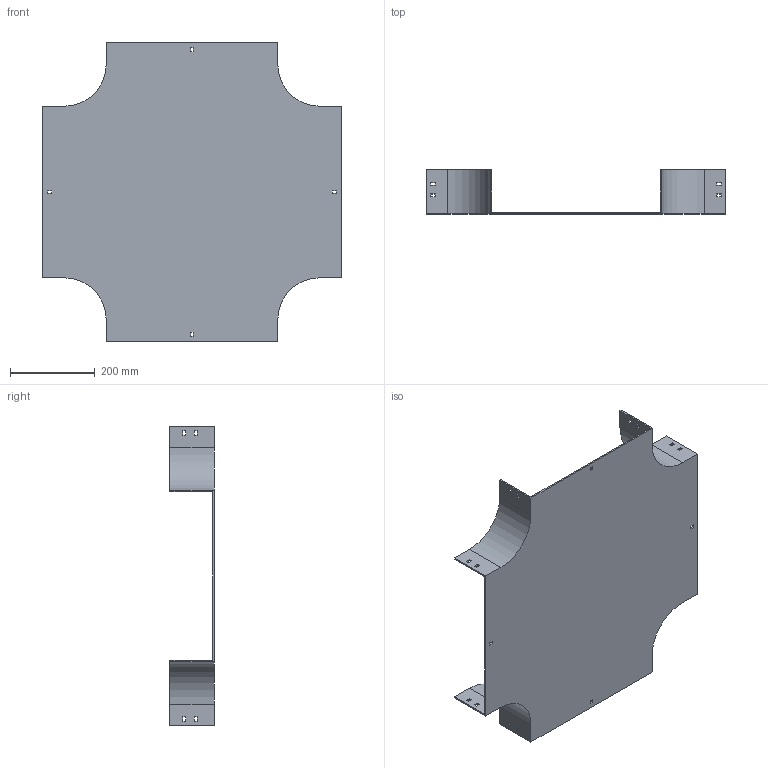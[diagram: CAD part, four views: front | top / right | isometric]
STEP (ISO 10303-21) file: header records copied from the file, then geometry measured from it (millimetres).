
FILE_DESCRIPTION (( 'STEP AP214' ), '1' );
FILE_NAME ('17B1D400.step', '2025-02-21T09:56:19', ( '' ), ( '' ), 'SwSTEP 2.0', 'SolidWorks 2023', '' );
FILE_SCHEMA (( 'AUTOMOTIVE_DESIGN' ));
Length unit declared in the file: millimetre
Products named in the file (1): 17B1D400
Bounding box: 704 x 104 x 704 mm (x, y, z)
Volume: 1810540 mm3; surface area: 1049001.4 mm2
Topology: 1 solids, 1 shells, 114 faces, 336 edges, 224 vertices
Faces by surface type: plane 106, cylinder 8
Entity records: 3839 total; most frequent: CARTESIAN_POINT 675, ORIENTED_EDGE 672, DIRECTION 582, EDGE_CURVE 336, LINE 320, VECTOR 320, VERTEX_POINT 224, EDGE_LOOP 154
